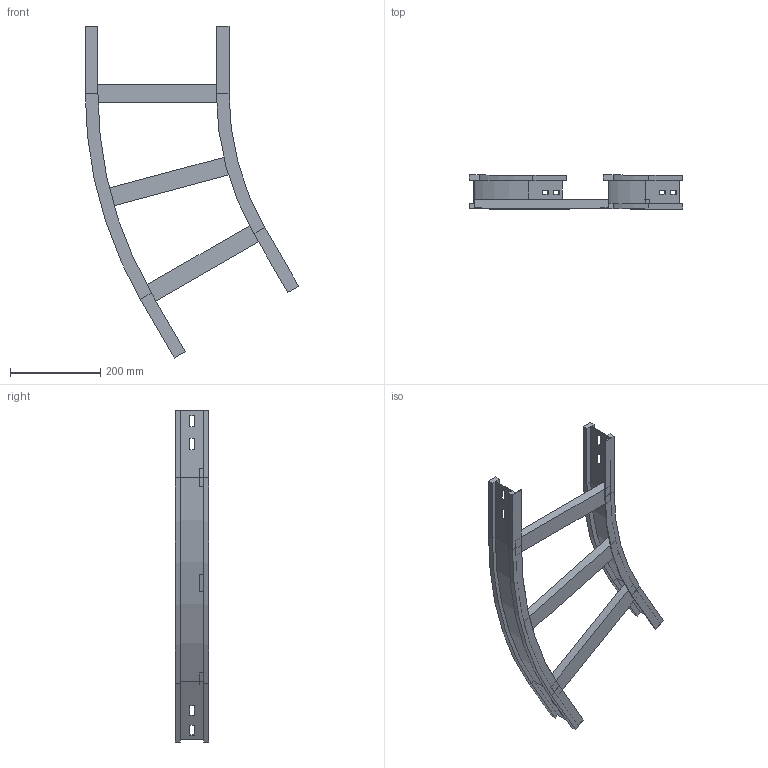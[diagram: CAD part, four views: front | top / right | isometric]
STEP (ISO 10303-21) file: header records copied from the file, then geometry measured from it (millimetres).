
FILE_DESCRIPTION (( 'STEP AP214' ), '1' );
FILE_NAME ('12S6C300.step', '2025-02-21T16:02:31', ( '' ), ( '' ), 'SwSTEP 2.0', 'SolidWorks 2023', '' );
FILE_SCHEMA (( 'AUTOMOTIVE_DESIGN' ));
Length unit declared in the file: millimetre
Products named in the file (4): LONGH.INTERNO 30°_H75_R600; 12S6C300; TRAVERSINO_300; LONGH.ESTERNO 30°_H75_R600+300
Assembly tree (5 placements, depth 2):
  12S6C300
    LONGH.INTERNO 30°_H75_R600
    LONGH.ESTERNO 30°_H75_R600+300
    TRAVERSINO_300  x3
Bounding box: 472.18 x 75 x 734.4 mm (x, y, z)
Volume: 1401664.9 mm3; surface area: 454051.3 mm2
Topology: 5 solids, 5 shells, 126 faces, 300 edges, 184 vertices
Faces by surface type: plane 114, cylinder 12
Entity records: 3389 total; most frequent: CARTESIAN_POINT 566, ORIENTED_EDGE 552, DIRECTION 544, EDGE_CURVE 276, VECTOR 252, LINE 252, VERTEX_POINT 168, AXIS2_PLACEMENT_3D 146
